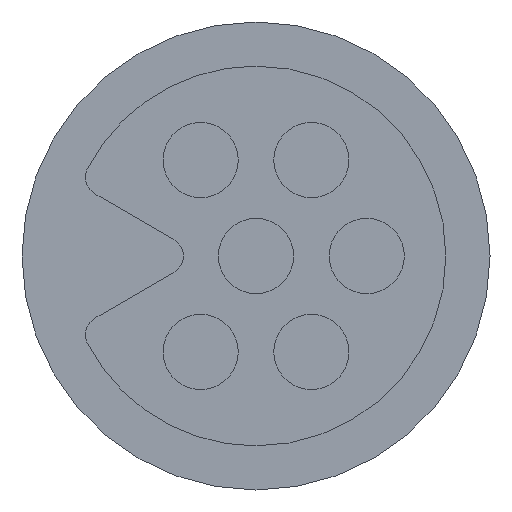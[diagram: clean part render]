
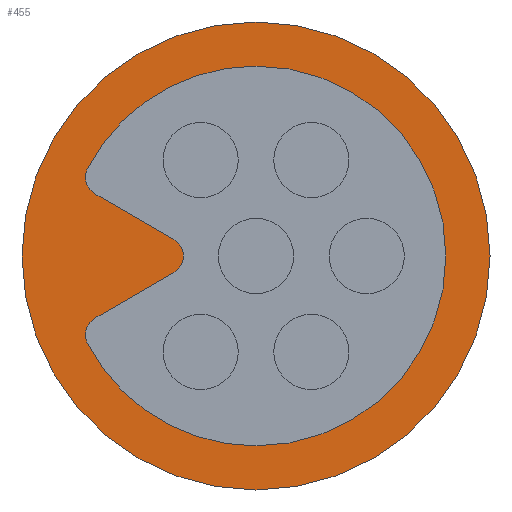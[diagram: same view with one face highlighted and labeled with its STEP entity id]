
A CAD part, left-side view. The second image highlights one B-rep face of the part: STEP entity #455.
In plain terms, the highlighted planar face has unit normal (-1, 0, 0).
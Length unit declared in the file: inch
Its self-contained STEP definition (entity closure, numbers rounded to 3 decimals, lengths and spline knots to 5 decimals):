
#26 = CARTESIAN_POINT ( 'NONE',  ( 0.105, 0., 0.061 ) ) ;
#67 = DIRECTION ( 'NONE',  ( 0., 0., 1. ) ) ;
#80 = DIRECTION ( 'NONE',  ( 0., 0., 1. ) ) ;
#92 = CARTESIAN_POINT ( 'NONE',  ( 0.105, 0.04198, 0.0162 ) ) ;
#96 = VERTEX_POINT ( 'NONE', #2096 ) ;
#147 = ORIENTED_EDGE ( 'NONE', *, *, #1886, .T. ) ;
#149 = CARTESIAN_POINT ( 'NONE',  ( 0.105, 0., -0.061 ) ) ;
#169 = CIRCLE ( 'NONE', #2216, 0.005 ) ;
#176 = DIRECTION ( 'NONE',  ( 0., 0., 1. ) ) ;
#193 = PLANE ( 'NONE',  #1612 ) ;
#224 = ORIENTED_EDGE ( 'NONE', *, *, #1852, .T. ) ;
#339 = CARTESIAN_POINT ( 'NONE',  ( 0.105, 0., 0. ) ) ;
#454 = CARTESIAN_POINT ( 'NONE',  ( 0.105, 0.03948, 0.02053 ) ) ;
#455 = ADVANCED_FACE ( 'NONE', ( #2071, #1068 ), #193, .T. ) ;
#533 = EDGE_CURVE ( 'NONE', #1382, #988, #1965, .T. ) ;
#561 = EDGE_CURVE ( 'NONE', #752, #96, #773, .T. ) ;
#564 = CARTESIAN_POINT ( 'NONE',  ( 0.105, 0.04592, -0.01848 ) ) ;
#630 = EDGE_LOOP ( 'NONE', ( #906, #860, #1828, #224, #1698, #1178, #2051, #1813 ) ) ;
#653 = DIRECTION ( 'NONE',  ( 0., 0.866, -0.5 ) ) ;
#662 = CIRCLE ( 'NONE', #779, 0.005 ) ;
#665 = DIRECTION ( 'NONE',  ( 0., 0., 1. ) ) ;
#683 = DIRECTION ( 'NONE',  ( -1., 0., 0. ) ) ;
#692 = DIRECTION ( 'NONE',  ( 0., 0., -1. ) ) ;
#737 = DIRECTION ( 'NONE',  ( -1., 0., 0. ) ) ;
#752 = VERTEX_POINT ( 'NONE', #1432 ) ;
#754 = AXIS2_PLACEMENT_3D ( 'NONE', #778, #683, #665 ) ;
#769 = CARTESIAN_POINT ( 'NONE',  ( 0.105, 0.02392, 0. ) ) ;
#773 = LINE ( 'NONE', #564, #1628 ) ;
#778 = CARTESIAN_POINT ( 'NONE',  ( 0.105, 0., 0. ) ) ;
#779 = AXIS2_PLACEMENT_3D ( 'NONE', #2185, #2150, #2040 ) ;
#784 = DIRECTION ( 'NONE',  ( 1., 0., 0. ) ) ;
#812 = AXIS2_PLACEMENT_3D ( 'NONE', #1266, #1627, #1080 ) ;
#860 = ORIENTED_EDGE ( 'NONE', *, *, #1305, .F. ) ;
#887 = DIRECTION ( 'NONE',  ( 0., -0.866, -0.5 ) ) ;
#891 = VECTOR ( 'NONE', #887, 39.37008 ) ;
#899 = CARTESIAN_POINT ( 'NONE',  ( 0.105, 0.04592, 0.01848 ) ) ;
#906 = ORIENTED_EDGE ( 'NONE', *, *, #561, .F. ) ;
#909 = VERTEX_POINT ( 'NONE', #1511 ) ;
#978 = EDGE_CURVE ( 'NONE', #909, #1259, #1243, .T. ) ;
#981 = VERTEX_POINT ( 'NONE', #92 ) ;
#988 = VERTEX_POINT ( 'NONE', #149 ) ;
#1049 = AXIS2_PLACEMENT_3D ( 'NONE', #1136, #1372, #176 ) ;
#1053 = AXIS2_PLACEMENT_3D ( 'NONE', #339, #2027, #80 ) ;
#1068 = FACE_OUTER_BOUND ( 'NONE', #1818, .T. ) ;
#1076 = EDGE_CURVE ( 'NONE', #981, #1737, #1561, .T. ) ;
#1080 = DIRECTION ( 'NONE',  ( 0., 0., 1. ) ) ;
#1136 = CARTESIAN_POINT ( 'NONE',  ( 0.105, 0., 0. ) ) ;
#1178 = ORIENTED_EDGE ( 'NONE', *, *, #1826, .F. ) ;
#1196 = CARTESIAN_POINT ( 'NONE',  ( 0.105, 0.02142, 0.00433 ) ) ;
#1243 = CIRCLE ( 'NONE', #1053, 0.0495 ) ;
#1244 = VERTEX_POINT ( 'NONE', #2186 ) ;
#1248 = VERTEX_POINT ( 'NONE', #1905 ) ;
#1254 = DIRECTION ( 'NONE',  ( 0., 0., 1. ) ) ;
#1259 = VERTEX_POINT ( 'NONE', #2149 ) ;
#1266 = CARTESIAN_POINT ( 'NONE',  ( 0.105, 0., 0. ) ) ;
#1293 = AXIS2_PLACEMENT_3D ( 'NONE', #454, #2160, #1254 ) ;
#1305 = EDGE_CURVE ( 'NONE', #1737, #752, #169, .T. ) ;
#1372 = DIRECTION ( 'NONE',  ( -1., 0., 0. ) ) ;
#1382 = VERTEX_POINT ( 'NONE', #26 ) ;
#1432 = CARTESIAN_POINT ( 'NONE',  ( 0.105, 0.02142, -0.00433 ) ) ;
#1511 = CARTESIAN_POINT ( 'NONE',  ( 0.105, 0., 0.0495 ) ) ;
#1518 = EDGE_CURVE ( 'NONE', #1248, #1244, #1723, .T. ) ;
#1545 = AXIS2_PLACEMENT_3D ( 'NONE', #1618, #737, #67 ) ;
#1561 = LINE ( 'NONE', #899, #891 ) ;
#1579 = EDGE_CURVE ( 'NONE', #1248, #96, #662, .T. ) ;
#1612 = AXIS2_PLACEMENT_3D ( 'NONE', #2088, #1903, #1929 ) ;
#1618 = CARTESIAN_POINT ( 'NONE',  ( 0.105, 0., 0. ) ) ;
#1627 = DIRECTION ( 'NONE',  ( -1., 0., 0. ) ) ;
#1628 = VECTOR ( 'NONE', #653, 39.37008 ) ;
#1698 = ORIENTED_EDGE ( 'NONE', *, *, #978, .F. ) ;
#1723 = CIRCLE ( 'NONE', #754, 0.0495 ) ;
#1726 = ORIENTED_EDGE ( 'NONE', *, *, #533, .T. ) ;
#1737 = VERTEX_POINT ( 'NONE', #1196 ) ;
#1813 = ORIENTED_EDGE ( 'NONE', *, *, #1579, .T. ) ;
#1818 = EDGE_LOOP ( 'NONE', ( #1726, #147 ) ) ;
#1826 = EDGE_CURVE ( 'NONE', #1244, #909, #2035, .T. ) ;
#1828 = ORIENTED_EDGE ( 'NONE', *, *, #1076, .F. ) ;
#1852 = EDGE_CURVE ( 'NONE', #981, #1259, #2077, .T. ) ;
#1871 = CIRCLE ( 'NONE', #1049, 0.061 ) ;
#1886 = EDGE_CURVE ( 'NONE', #988, #1382, #1871, .T. ) ;
#1903 = DIRECTION ( 'NONE',  ( -1., 0., 0. ) ) ;
#1905 = CARTESIAN_POINT ( 'NONE',  ( 0.105, 0.04392, -0.02284 ) ) ;
#1929 = DIRECTION ( 'NONE',  ( 0., 0., 1. ) ) ;
#1965 = CIRCLE ( 'NONE', #1545, 0.061 ) ;
#2027 = DIRECTION ( 'NONE',  ( -1., 0., 0. ) ) ;
#2035 = CIRCLE ( 'NONE', #812, 0.0495 ) ;
#2040 = DIRECTION ( 'NONE',  ( 0., 0., 1. ) ) ;
#2051 = ORIENTED_EDGE ( 'NONE', *, *, #1518, .F. ) ;
#2071 = FACE_BOUND ( 'NONE', #630, .T. ) ;
#2077 = CIRCLE ( 'NONE', #1293, 0.005 ) ;
#2088 = CARTESIAN_POINT ( 'NONE',  ( 0.105, 0., 0. ) ) ;
#2096 = CARTESIAN_POINT ( 'NONE',  ( 0.105, 0.04198, -0.0162 ) ) ;
#2149 = CARTESIAN_POINT ( 'NONE',  ( 0.105, 0.04392, 0.02284 ) ) ;
#2150 = DIRECTION ( 'NONE',  ( 1., 0., 0. ) ) ;
#2160 = DIRECTION ( 'NONE',  ( 1., 0., 0. ) ) ;
#2185 = CARTESIAN_POINT ( 'NONE',  ( 0.105, 0.03948, -0.02053 ) ) ;
#2186 = CARTESIAN_POINT ( 'NONE',  ( 0.105, 0., -0.0495 ) ) ;
#2216 = AXIS2_PLACEMENT_3D ( 'NONE', #769, #784, #692 ) ;
